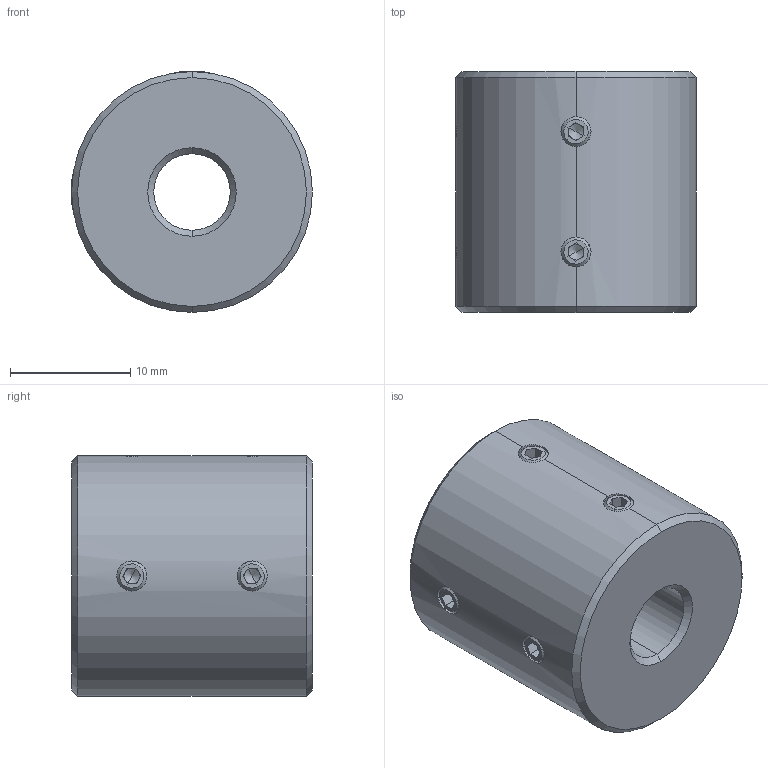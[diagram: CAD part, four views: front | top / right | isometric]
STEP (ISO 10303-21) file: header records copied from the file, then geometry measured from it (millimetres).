
FILE_DESCRIPTION (( 'STEP AP214' ), '1' );
FILE_NAME ('LL-D-D20L20-6.35-6.35.STEP', '2022-07-23T06:33:48', ( '' ), ( '' ), 'SwSTEP 2.0', 'SolidWorks 2022', '' );
FILE_SCHEMA (( 'AUTOMOTIVE_DESIGN' ));
Length unit declared in the file: millimetre
Products named in the file (1): LL-D-D20L20-6.35-6.35
Bounding box: 20 x 20 x 20 mm (x, y, z)
Volume: 5560.8 mm3; surface area: 2317 mm2
Topology: 1 solids, 1 shells, 110 faces, 280 edges, 172 vertices
Faces by surface type: plane 58, cone 32, cylinder 20
Entity records: 3550 total; most frequent: CARTESIAN_POINT 867, DIRECTION 566, ORIENTED_EDGE 544, EDGE_CURVE 272, AXIS2_PLACEMENT_3D 207, VERTEX_POINT 172, LINE 152, VECTOR 152
